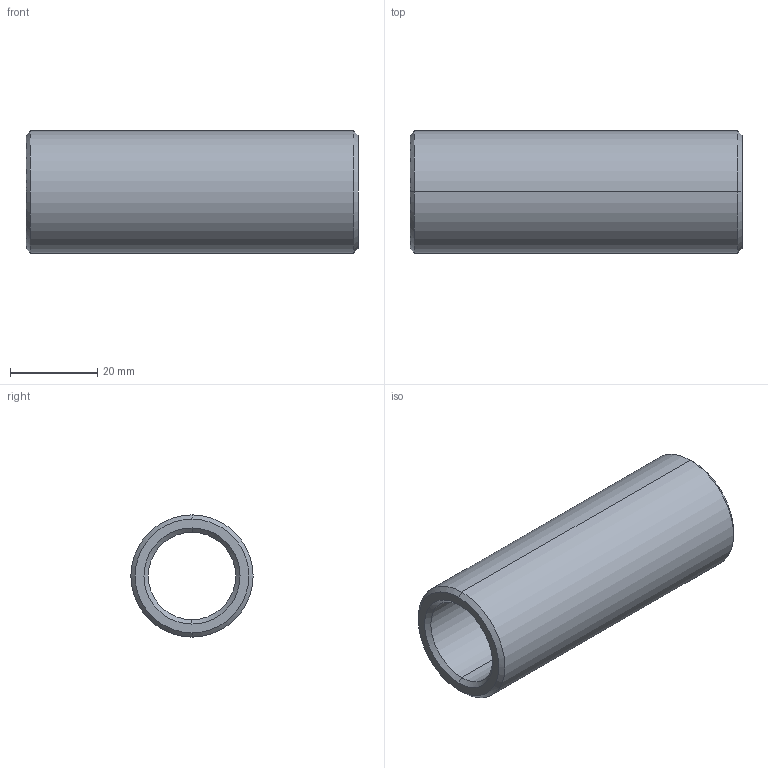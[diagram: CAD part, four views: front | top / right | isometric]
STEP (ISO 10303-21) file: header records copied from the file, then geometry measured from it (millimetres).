
FILE_DESCRIPTION(('CATIA V5 STEP Exchange'),'2;1');
FILE_NAME('C:\Users\Utente\Desktop\IO LAVORO\3D X SITO CF\X SITO\PLASTICA\352\352-20X76.stp','2021-04-12T15:43:24+00:00',('none'),('none'),'CATIA Version 5 Release 20 GA (IN-10)','CATIA V5 STEP AP203','none');
FILE_SCHEMA(('CONFIG_CONTROL_DESIGN'));
Length unit declared in the file: millimetre
Products named in the file (1): 352-20X76
Bounding box: 76 x 28 x 28 mm (x, y, z)
Volume: 22788.9 mm3; surface area: 11896 mm2
Topology: 1 solids, 1 shells, 14 faces, 44 edges, 32 vertices
Faces by surface type: cone 6, cylinder 4, plane 2, torus 2
Entity records: 634 total; most frequent: CARTESIAN_POINT 203, ORIENTED_EDGE 88, DIRECTION 64, EDGE_CURVE 44, AXIS2_PLACEMENT_3D 41, VERTEX_POINT 32, CIRCLE 26, EDGE_LOOP 16
